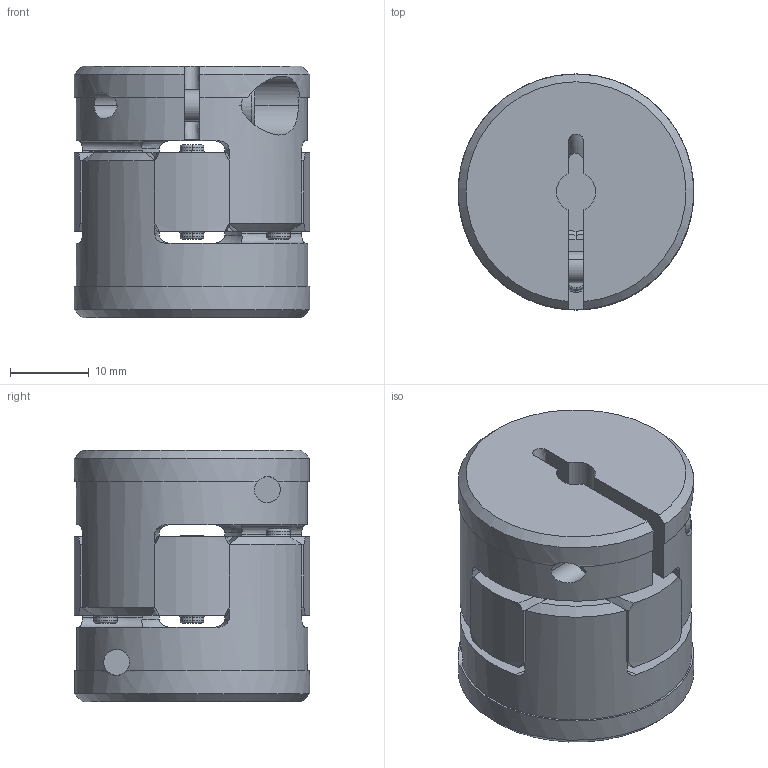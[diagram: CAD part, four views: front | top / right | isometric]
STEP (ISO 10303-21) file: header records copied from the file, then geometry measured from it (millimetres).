
FILE_DESCRIPTION((''),'2;1');
FILE_NAME('ROBA-ES__SIZE_14_TYPE_940_055','2021-06-25T14:24:52',('procad'),('Chr. Mayr GmbH + Co. KG'),'CREO PARAMETRIC BY PTC INC, 2019471','CREO PARAMETRIC BY PTC INC, 2019471','');
FILE_SCHEMA(('CONFIG_CONTROL_DESIGN','SHAPE_APPEARANCE_LAYERS_GROUPS'));
Length unit declared in the file: millimetre
Products named in the file (1): ROBA-ES__SIZE_14_TYPE_940_055
Bounding box: 30 x 30 x 32 mm (x, y, z)
Volume: 18027.5 mm3; surface area: 8511.5 mm2
Topology: 1 solids, 1 shells, 336 faces, 887 edges, 560 vertices
Faces by surface type: plane 162, cylinder 80, cone 54, torus 40
Entity records: 13361 total; most frequent: CARTESIAN_POINT 2813, ORIENTED_EDGE 1774, DIRECTION 1705, EDGE_CURVE 887, AXIS2_PLACEMENT_3D 634, VERTEX_POINT 560, VECTOR 437, LINE 437
